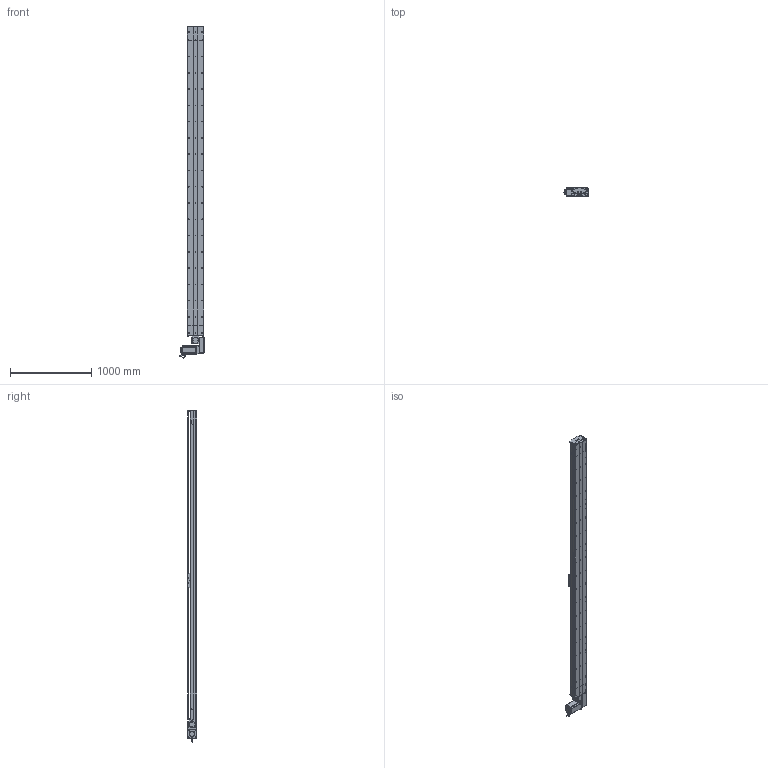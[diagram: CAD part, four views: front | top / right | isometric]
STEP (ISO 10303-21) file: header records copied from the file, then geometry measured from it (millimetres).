
FILE_DESCRIPTION (( 'STEP AP214' ), '1' );
FILE_NAME ('D20 TBH LH S3500.STEP', '2010-07-01T09:02:16', ( 'Conseil Régional Haute-Normandie' ), ( 'Conseil Régional Haute-Normandie' ), 'SwSTEP 2.0', 'SolidWorks 2010', '' );
FILE_SCHEMA (( 'AUTOMOTIVE_DESIGN' ));
Length unit declared in the file: millimetre
Products named in the file (40): avant 110BLDC170A-630x; Moteur motionking 110BLDC170A-640x; D20 TBH LH S3500; corps 110BLDC170A-630x; clavette; Conecteur2_Default; corpl tail D20 +100_Default; Conecteur_Default; rail tail D20; tail D20+100_Default; vis M8 L12_Default; vis M5 L12_Default; tete d''axe poulie D20B; couvercle tail D20_Default; Couroie tail D20_Default; codeur 110BLDC170A-630x; plaque de  bout tail D20_Default; poulie tail D20_Default; vis M5 L8 90°_Default; vis M5 L25_Default; vis M5 L70_Default; Plaque racord D20LH_Default; Course B L3500_Default; Renvoi LH D20_Default; vis M5 L5_Default; couroie_Default; cache D20_Default; cache arbre D20_Default; plaque de  bout head D20B LH_Default; poulie head D20_Default; couvercle head D20_Default; rail head D20; corpl head D20_Default; head LH_Default; guide D20B; Chariot D20B; chariot D20B_Default; rail + couroie  D20 S3500; couvercle D20 S3500_Default; corp D20 S3500_Default
Assembly tree (71 placements, depth 4):
  D20 TBH LH S3500
    Course B L3500_Default
      corp D20 S3500_Default
      couvercle D20 S3500_Default
      rail + couroie  D20 S3500
    chariot D20B_Default
      Chariot D20B
      vis M5 L12_Default  x4
      guide D20B  x2
    tail D20+100_Default
      rail tail D20
      vis M5 L25_Default  x2
      plaque de  bout tail D20_Default
      couvercle tail D20_Default
      corpl tail D20 +100_Default
      vis M5 L12_Default  x4
      Couroie tail D20_Default
      tete d''axe poulie D20B
      vis M5 L8 90°_Default  x2
      poulie tail D20_Default
    head LH_Default
      vis M5 L25_Default  x2
      vis M5 L12_Default  x10
      vis M5 L70_Default  x4
      vis M5 L5_Default  x4
      couvercle head D20_Default
      vis M8 L12_Default  x4
      poulie head D20_Default
      corpl head D20_Default
      Plaque racord D20LH_Default
      Moteur motionking 110BLDC170A-640x
        Conecteur_Default
        codeur 110BLDC170A-630x
        Conecteur2_Default
        avant 110BLDC170A-630x
        clavette
        corps 110BLDC170A-630x
      rail head D20
      cache D20_Default  x2
      Renvoi LH D20_Default
      plaque de  bout head D20B LH_Default
      cache arbre D20_Default
      couroie_Default
Bounding box: 304.2 x 115.7 x 4080 mm (x, y, z)
Volume: 30522123.8 mm3; surface area: 7582453.7 mm2
Topology: 95 solids, 95 shells, 2915 faces, 7551 edges, 4885 vertices
Faces by surface type: plane 1656, cylinder 935, bspline 136, cone 99, torus 89
Entity records: 95550 total; most frequent: CARTESIAN_POINT 31319, ORIENTED_EDGE 11758, DIRECTION 10998, EDGE_CURVE 5879, VERTEX_POINT 3871, VECTOR 3682, LINE 3682, AXIS2_PLACEMENT_3D 3658
